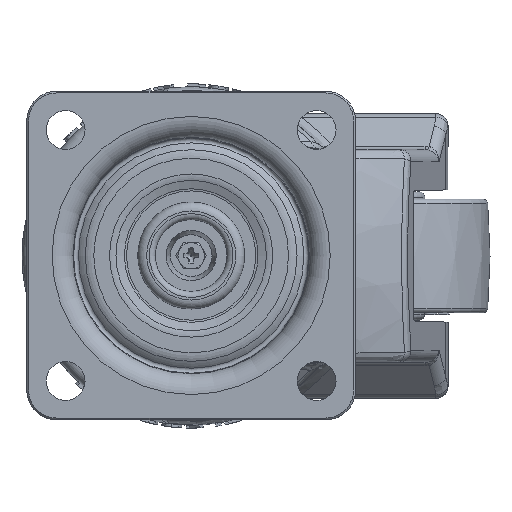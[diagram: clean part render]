
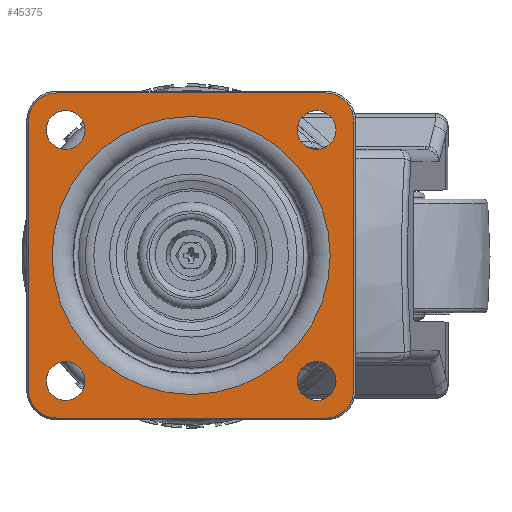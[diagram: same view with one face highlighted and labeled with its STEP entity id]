
A CAD part, top view. The second image highlights one B-rep face of the part: STEP entity #45375.
In plain terms, the highlighted planar face has unit normal (0, 0, 1).
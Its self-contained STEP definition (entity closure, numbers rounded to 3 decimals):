
#1325=FACE_BOUND('',#7029,.T.);
#1326=FACE_BOUND('',#7030,.T.);
#1327=FACE_BOUND('',#7031,.T.);
#1328=FACE_BOUND('',#7032,.T.);
#1329=FACE_BOUND('',#7033,.T.);
#4265=FACE_OUTER_BOUND('',#7028,.T.);
#7028=EDGE_LOOP('',(#36926,#36927,#36928,#36929,#36930,#36931,#36932,#36933));
#7029=EDGE_LOOP('',(#36934));
#7030=EDGE_LOOP('',(#36935));
#7031=EDGE_LOOP('',(#36936));
#7032=EDGE_LOOP('',(#36937));
#7033=EDGE_LOOP('',(#36938));
#9192=CIRCLE('',#48966,4.7);
#9194=CIRCLE('',#48970,4.7);
#9196=CIRCLE('',#48974,4.7);
#9197=CIRCLE('',#48977,4.7);
#9198=CIRCLE('',#48982,3.25);
#9199=CIRCLE('',#48983,3.25);
#9200=CIRCLE('',#48984,3.25);
#9201=CIRCLE('',#48985,3.25);
#9202=CIRCLE('',#48986,23.263);
#11223=LINE('',#90005,#13543);
#11227=LINE('',#90017,#13547);
#11231=LINE('',#90028,#13551);
#11235=LINE('',#90037,#13555);
#13543=VECTOR('',#57289,10.);
#13547=VECTOR('',#57301,10.);
#13551=VECTOR('',#57313,10.);
#13555=VECTOR('',#57323,10.);
#19372=VERTEX_POINT('',#90002);
#19373=VERTEX_POINT('',#90004);
#19375=VERTEX_POINT('',#90009);
#19377=VERTEX_POINT('',#90015);
#19379=VERTEX_POINT('',#90021);
#19380=VERTEX_POINT('',#90026);
#19381=VERTEX_POINT('',#90031);
#19382=VERTEX_POINT('',#90035);
#19383=VERTEX_POINT('',#90047);
#19384=VERTEX_POINT('',#90049);
#19385=VERTEX_POINT('',#90051);
#19386=VERTEX_POINT('',#90053);
#19387=VERTEX_POINT('',#90055);
#25330=EDGE_CURVE('',#19372,#19373,#11223,.T.);
#25333=EDGE_CURVE('',#19375,#19372,#9192,.T.);
#25336=EDGE_CURVE('',#19377,#19375,#11227,.T.);
#25339=EDGE_CURVE('',#19379,#19377,#9194,.T.);
#25342=EDGE_CURVE('',#19380,#19379,#11231,.T.);
#25345=EDGE_CURVE('',#19381,#19380,#9196,.T.);
#25347=EDGE_CURVE('',#19382,#19381,#11235,.T.);
#25348=EDGE_CURVE('',#19373,#19382,#9197,.T.);
#25352=EDGE_CURVE('',#19383,#19383,#9198,.T.);
#25353=EDGE_CURVE('',#19384,#19384,#9199,.T.);
#25354=EDGE_CURVE('',#19385,#19385,#9200,.T.);
#25355=EDGE_CURVE('',#19386,#19386,#9201,.T.);
#25356=EDGE_CURVE('',#19387,#19387,#9202,.T.);
#36926=ORIENTED_EDGE('',*,*,#25330,.F.);
#36927=ORIENTED_EDGE('',*,*,#25333,.F.);
#36928=ORIENTED_EDGE('',*,*,#25336,.F.);
#36929=ORIENTED_EDGE('',*,*,#25339,.F.);
#36930=ORIENTED_EDGE('',*,*,#25342,.F.);
#36931=ORIENTED_EDGE('',*,*,#25345,.F.);
#36932=ORIENTED_EDGE('',*,*,#25347,.F.);
#36933=ORIENTED_EDGE('',*,*,#25348,.F.);
#36934=ORIENTED_EDGE('',*,*,#25352,.T.);
#36935=ORIENTED_EDGE('',*,*,#25353,.T.);
#36936=ORIENTED_EDGE('',*,*,#25354,.T.);
#36937=ORIENTED_EDGE('',*,*,#25355,.T.);
#36938=ORIENTED_EDGE('',*,*,#25356,.F.);
#40416=PLANE('',#48981);
#45375=ADVANCED_FACE('',(#4265,#1325,#1326,#1327,#1328,#1329),#40416,.T.);
#48966=AXIS2_PLACEMENT_3D('',#90011,#57294,#57295);
#48970=AXIS2_PLACEMENT_3D('',#90023,#57306,#57307);
#48974=AXIS2_PLACEMENT_3D('',#90033,#57318,#57319);
#48977=AXIS2_PLACEMENT_3D('',#90039,#57326,#57327);
#48981=AXIS2_PLACEMENT_3D('',#90046,#57337,#57338);
#48982=AXIS2_PLACEMENT_3D('',#90048,#57339,#57340);
#48983=AXIS2_PLACEMENT_3D('',#90050,#57341,#57342);
#48984=AXIS2_PLACEMENT_3D('',#90052,#57343,#57344);
#48985=AXIS2_PLACEMENT_3D('',#90054,#57345,#57346);
#48986=AXIS2_PLACEMENT_3D('',#90056,#57347,#57348);
#57289=DIRECTION('',(1.,0.,0.));
#57294=DIRECTION('center_axis',(0.,0.,-1.));
#57295=DIRECTION('ref_axis',(0.,1.,0.));
#57301=DIRECTION('',(0.,1.,0.));
#57306=DIRECTION('center_axis',(0.,0.,-1.));
#57307=DIRECTION('ref_axis',(-1.,0.,0.));
#57313=DIRECTION('',(-1.,0.,0.));
#57318=DIRECTION('center_axis',(0.,0.,-1.));
#57319=DIRECTION('ref_axis',(0.,-1.,0.));
#57323=DIRECTION('',(0.,-1.,0.));
#57326=DIRECTION('center_axis',(0.,0.,-1.));
#57327=DIRECTION('ref_axis',(1.,0.,0.));
#57337=DIRECTION('center_axis',(0.,0.,1.));
#57338=DIRECTION('ref_axis',(1.,0.,0.));
#57339=DIRECTION('center_axis',(0.,0.,-1.));
#57340=DIRECTION('ref_axis',(-1.,0.,0.));
#57341=DIRECTION('center_axis',(0.,0.,-1.));
#57342=DIRECTION('ref_axis',(-1.,0.,0.));
#57343=DIRECTION('center_axis',(0.,0.,-1.));
#57344=DIRECTION('ref_axis',(-1.,0.,0.));
#57345=DIRECTION('center_axis',(0.,0.,-1.));
#57346=DIRECTION('ref_axis',(-1.,0.,0.));
#57347=DIRECTION('center_axis',(0.,0.,1.));
#57348=DIRECTION('ref_axis',(1.,0.,0.));
#90002=CARTESIAN_POINT('',(-22.5,27.2,0.));
#90004=CARTESIAN_POINT('',(22.5,27.2,0.));
#90005=CARTESIAN_POINT('',(-11.25,27.2,0.));
#90009=CARTESIAN_POINT('',(-27.2,22.5,0.));
#90011=CARTESIAN_POINT('Origin',(-22.5,22.5,0.));
#90015=CARTESIAN_POINT('',(-27.2,-22.5,0.));
#90017=CARTESIAN_POINT('',(-27.2,-11.25,0.));
#90021=CARTESIAN_POINT('',(-22.5,-27.2,0.));
#90023=CARTESIAN_POINT('Origin',(-22.5,-22.5,0.));
#90026=CARTESIAN_POINT('',(22.5,-27.2,0.));
#90028=CARTESIAN_POINT('',(11.25,-27.2,0.));
#90031=CARTESIAN_POINT('',(27.2,-22.5,0.));
#90033=CARTESIAN_POINT('Origin',(22.5,-22.5,0.));
#90035=CARTESIAN_POINT('',(27.2,22.5,0.));
#90037=CARTESIAN_POINT('',(27.2,11.25,0.));
#90039=CARTESIAN_POINT('Origin',(22.5,22.5,0.));
#90046=CARTESIAN_POINT('Origin',(0.,0.,0.));
#90047=CARTESIAN_POINT('',(-17.75,21.,0.));
#90048=CARTESIAN_POINT('Origin',(-21.,21.,0.));
#90049=CARTESIAN_POINT('',(24.25,21.,0.));
#90050=CARTESIAN_POINT('Origin',(21.,21.,0.));
#90051=CARTESIAN_POINT('',(-17.75,-21.,0.));
#90052=CARTESIAN_POINT('Origin',(-21.,-21.,0.));
#90053=CARTESIAN_POINT('',(24.25,-21.,0.));
#90054=CARTESIAN_POINT('Origin',(21.,-21.,0.));
#90055=CARTESIAN_POINT('',(-23.263,0.,0.));
#90056=CARTESIAN_POINT('Origin',(0.,0.,0.));
